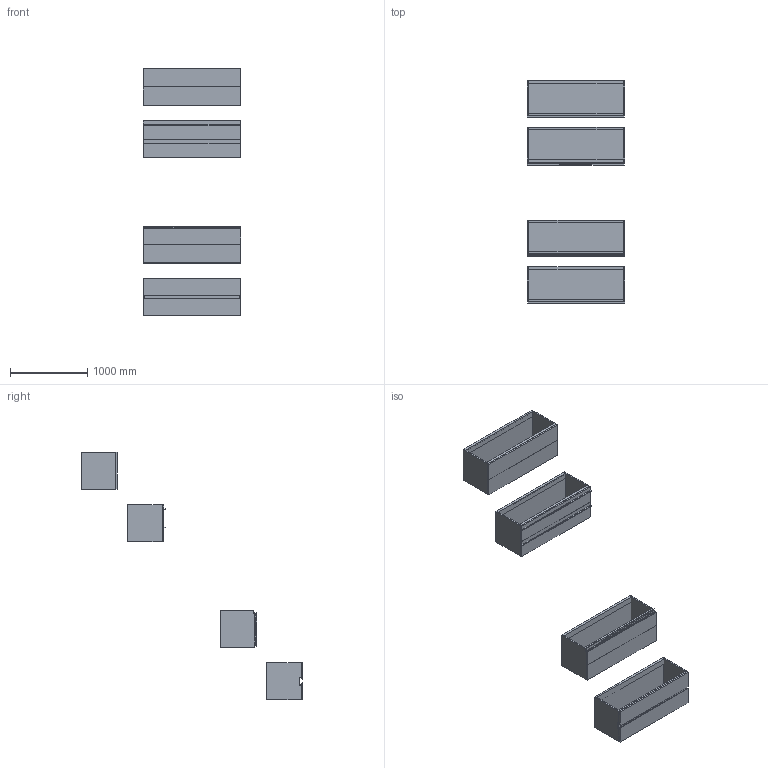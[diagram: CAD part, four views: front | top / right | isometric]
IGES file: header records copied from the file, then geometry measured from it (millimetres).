
Start section: Data from Parasolid IGES Translator 19.0.9, Copyright(c) 2006 Siemens PL M Software. All Rights Reserved.
Global section: file name: noorth-SI-H 48 D 47 W 126_8470.igs; native system: By Siemens PLM Incorporated; preprocessor: XPlus GENERIC/IGES 19.0.9; author: Noname; organization: Noname; date: 20200601.105011; units: metre
Bounding box: 1264.84 x 2869.1 x 3200.01 mm (x, y, z)
Volume: 127114906.5 mm3; surface area: 19985402.7 mm2
Topology: 37 solids, 37 shells, 342 faces, 748 edges, 460 vertices
Faces by surface type: plane 254, extrusion 36, bspline 32, cylinder 20
